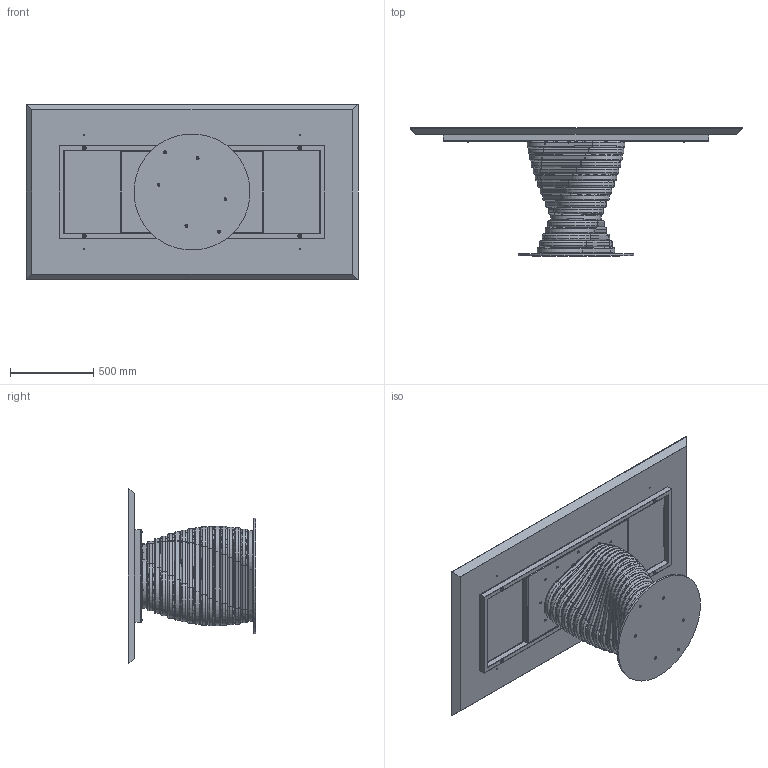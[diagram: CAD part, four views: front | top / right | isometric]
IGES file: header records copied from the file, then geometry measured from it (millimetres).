
Start section: SolidWorks IGES file using analytic representation for surfaces
Global section: file name: Y:\eforma\TECNICO\SOLIDWORKS\E-FORMA\1-TAVOLI\ROTOLO\02 parts\RO21W.IGS; native system: SolidWorks 2022; preprocessor: SolidWorks 2022; author: eforma.tech; date: 240807.153915; units: millimetre
Bounding box: 2000 x 770 x 1060 mm (x, y, z)
Volume: 90019781.8 mm3; surface area: 12199950.2 mm2
Topology: 94 solids, 94 shells, 1680 faces, 3998 edges, 2461 vertices
Faces by surface type: revolution 1018, plane 662
